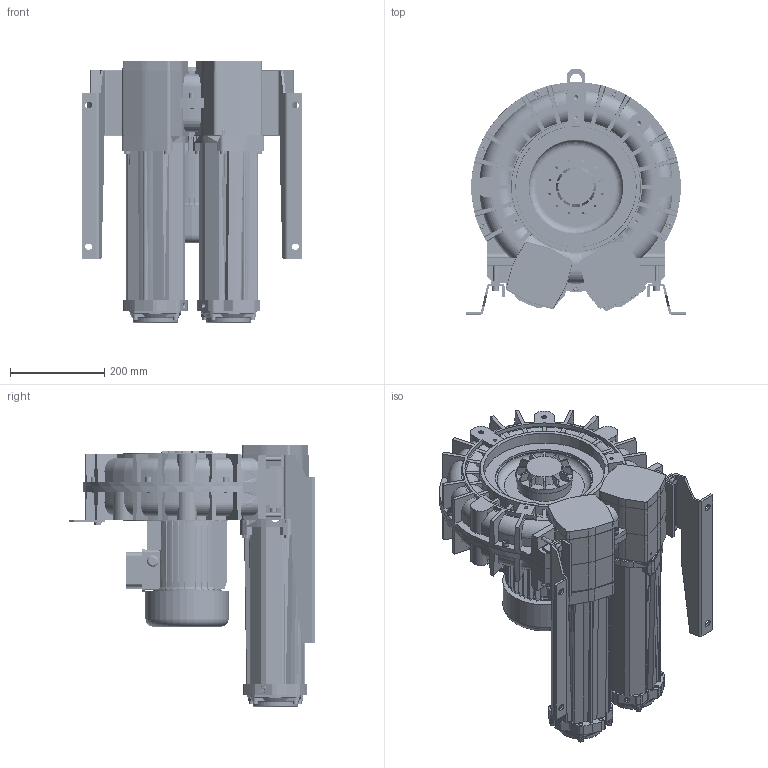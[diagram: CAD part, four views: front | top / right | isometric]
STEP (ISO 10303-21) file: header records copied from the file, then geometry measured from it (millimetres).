
FILE_DESCRIPTION (( 'STEP AP203' ), '1' );
FILE_NAME ('STP-L_e_07_MS_MOR_IE3WR_90_2.2kW-3_24-00.step', '2025-01-08T15:20:09', ( '' ), ( '' ), 'SwSTEP 2.0', 'SolidWorks 2024', '' );
FILE_SCHEMA (( 'CONFIG_CONTROL_DESIGN' ));
Products named in the file (1): STP-L_e_07_MS_MOR_IE3WR_90_2.2kW-3_24-00
Bounding box: 468 x 519 x 553 mm (x, y, z)
Volume: 32238727 mm3; surface area: 2329203.9 mm2
Topology: 95 solids, 103 shells, 5618 faces, 14282 edges, 8906 vertices
Faces by surface type: plane 2060, cylinder 1771, bspline 842, torus 454, cone 451, sphere 40
Full cylindrical faces by diameter (mm): 5 x16, 5.5 x4, 6 x32, 6.4 x12, 6.8 x14, 7 x4, 8 x26, 8.4 x22, 8.5 x9, 8.566 x2, 8.8 x4, 9 x8, 9.5 x4, 9.98 x2, 10 x26, 12 x3, 12.02 x2, 13 x29, 14 x15, 16 x7, 16.5 x2, 18 x2, 20 x2, 24 x2, 25 x1, 85.3 x2, 108 x2, 115 x2, 120 x1, 140 x2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
Entity records: 240105 total; most frequent: CARTESIAN_POINT 115931, ORIENTED_EDGE 26874, DIRECTION 23962, EDGE_CURVE 13437, AXIS2_PLACEMENT_3D 9211, VERTEX_POINT 8666, EDGE_LOOP 6435, FACE_OUTER_BOUND 5982
